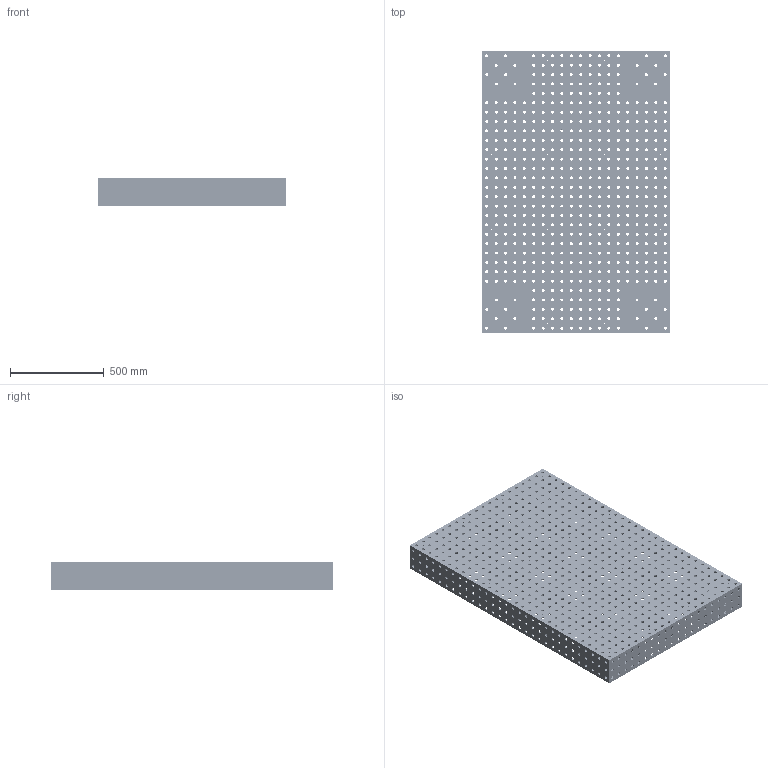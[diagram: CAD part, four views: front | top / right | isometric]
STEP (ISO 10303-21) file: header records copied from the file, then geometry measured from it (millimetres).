
FILE_DESCRIPTION(/* description */ (''),/* implementation_level */ '2;1');
FILE_NAME(/* name */ '3D Simplifi - 1500x1000 G3.step',/* time_stamp */ '2026-09-09T12:04:23+02:00',/* author */ (''),/* organization */ (''),/* preprocessor_version */ 'ST-DEVELOPER v20.2',/* originating_system */ 'Autodesk Translation Framework v15.15.0.0',/* authorisation */ '');
FILE_SCHEMA (('AUTOMOTIVE_DESIGN { 1 0 10303 214 3 1 1 }'));
Length unit declared in the file: millimetre
Products named in the file (1): 3D Simplifié - 1500x1000
Bounding box: 1000 x 1500 x 150 mm (x, y, z)
Volume: 21612980.1 mm3; surface area: 7672243.6 mm2
Topology: 6 solids, 6 shells, 1080 faces, 3204 edges, 2136 vertices
Faces by surface type: cylinder 948, plane 132
Full cylindrical faces by diameter (mm): 6.5 x16, 16 x932
Entity records: 41180 total; most frequent: DIRECTION 7262, CARTESIAN_POINT 6421, ORIENTED_EDGE 6408, EDGE_CURVE 3204, EDGE_LOOP 3024, AXIS2_PLACEMENT_3D 2977, VERTEX_POINT 2136, FACE_BOUND 1944
